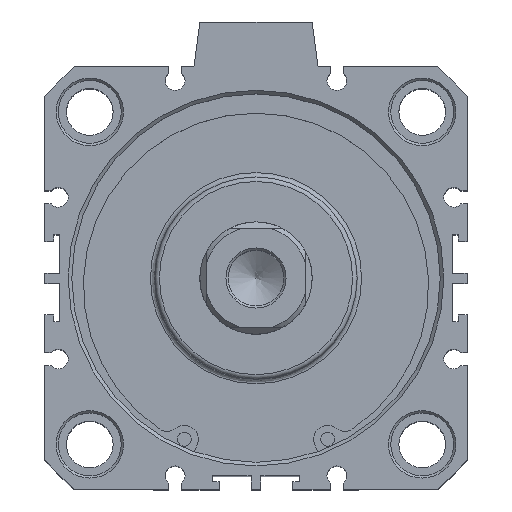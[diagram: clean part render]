
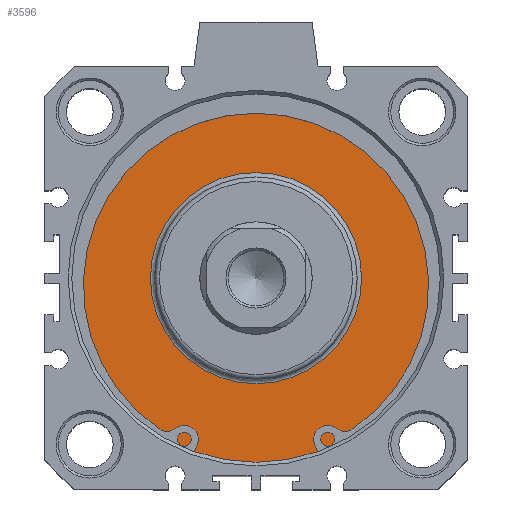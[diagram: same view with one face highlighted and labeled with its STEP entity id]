
A CAD part, top view. The second image highlights one B-rep face of the part: STEP entity #3596.
In plain terms, the highlighted planar face has unit normal (0, 0, 1).
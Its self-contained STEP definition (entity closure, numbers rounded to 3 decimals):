
#3545=CARTESIAN_POINT('',(2.033,24.337,85.6));
#3546=VERTEX_POINT('',#3545);
#3547=CARTESIAN_POINT('',(2.033,0.837,85.6));
#3548=DIRECTION('',(0.0,0.0,1.0));
#3549=DIRECTION('',(0.0,-1.0,0.0));
#3550=AXIS2_PLACEMENT_3D('',#3547,#3548,#3549);
#3551=CIRCLE('',#3550,23.5);
#3552=EDGE_CURVE('',#3546,#3546,#3551,.T.);
#3577=CARTESIAN_POINT('',(2.033,32.587,85.6));
#3578=DIRECTION('',(0.0,0.0,1.0));
#3579=DIRECTION('',(1.0,0.0,0.0));
#3580=AXIS2_PLACEMENT_3D('',#3577,#3578,#3579);
#3581=PLANE('',#3580);
#3582=CARTESIAN_POINT('',(2.033,41.837,85.6));
#3583=VERTEX_POINT('',#3582);
#3584=CARTESIAN_POINT('',(2.033,0.837,85.6));
#3585=DIRECTION('',(0.0,0.0,-1.0));
#3586=DIRECTION('',(0.0,1.0,0.0));
#3587=AXIS2_PLACEMENT_3D('',#3584,#3585,#3586);
#3588=CIRCLE('',#3587,41.);
#3589=EDGE_CURVE('',#3583,#3583,#3588,.T.);
#3590=ORIENTED_EDGE('',*,*,#3589,.F.);
#3591=EDGE_LOOP('',(#3590));
#3592=FACE_OUTER_BOUND('',#3591,.T.);
#3593=ORIENTED_EDGE('',*,*,#3552,.F.);
#3594=EDGE_LOOP('',(#3593));
#3595=FACE_BOUND('',#3594,.T.);
#3596=ADVANCED_FACE('',(#3592,#3595),#3581,.T.);
